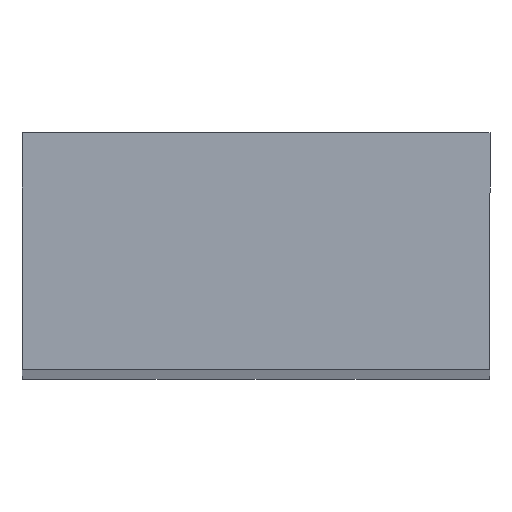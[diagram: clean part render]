
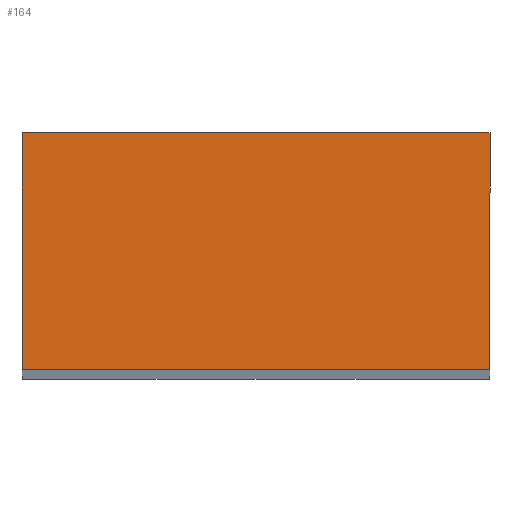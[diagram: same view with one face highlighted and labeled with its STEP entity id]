
A CAD part, top view. The second image highlights one B-rep face of the part: STEP entity #164.
In plain terms, the highlighted planar face has unit normal (0, 0, 1).
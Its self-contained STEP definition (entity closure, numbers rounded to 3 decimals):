
#84 = EDGE_LOOP ( 'NONE', ( #539, #537, #534, #533 ) ) ;
#164 = ADVANCED_FACE ( 'NONE', ( #646 ), #1028, .F. ) ;
#247 = LINE ( 'NONE', #1207, #248 ) ;
#248 = VECTOR ( 'NONE', #1206, 1000. ) ;
#285 = CARTESIAN_POINT ( 'NONE',  ( 10.125, -5.125, 260. ) ) ;
#298 = CARTESIAN_POINT ( 'NONE',  ( 10.125, 5.125, 260. ) ) ;
#383 = VERTEX_POINT ( 'NONE', #991 ) ;
#388 = VERTEX_POINT ( 'NONE', #984 ) ;
#445 = LINE ( 'NONE', #1233, #446 ) ;
#446 = VECTOR ( 'NONE', #1237, 1000. ) ;
#461 = LINE ( 'NONE', #1229, #462 ) ;
#462 = VECTOR ( 'NONE', #1228, 1000. ) ;
#463 = LINE ( 'NONE', #1227, #464 ) ;
#464 = VECTOR ( 'NONE', #1226, 1000. ) ;
#533 = ORIENTED_EDGE ( 'NONE', *, *, #775, .T. ) ;
#534 = ORIENTED_EDGE ( 'NONE', *, *, #772, .T. ) ;
#537 = ORIENTED_EDGE ( 'NONE', *, *, #771, .T. ) ;
#539 = ORIENTED_EDGE ( 'NONE', *, *, #720, .T. ) ;
#646 = FACE_OUTER_BOUND ( 'NONE', #84, .T. ) ;
#720 = EDGE_CURVE ( 'NONE', #383, #388, #247, .T. ) ;
#771 = EDGE_CURVE ( 'NONE', #388, #1090, #461, .T. ) ;
#772 = EDGE_CURVE ( 'NONE', #1090, #1091, #463, .T. ) ;
#775 = EDGE_CURVE ( 'NONE', #1091, #383, #445, .T. ) ;
#806 = AXIS2_PLACEMENT_3D ( 'NONE', #1019, #1046, #1044 ) ;
#984 = CARTESIAN_POINT ( 'NONE',  ( -10.125, -5.125, 260. ) ) ;
#991 = CARTESIAN_POINT ( 'NONE',  ( -10.125, 5.125, 260. ) ) ;
#1019 = CARTESIAN_POINT ( 'NONE',  ( -10.125, 5.125, 260. ) ) ;
#1028 = PLANE ( 'NONE',  #806 ) ;
#1044 = DIRECTION ( 'NONE',  ( -1., 0., 0. ) ) ;
#1046 = DIRECTION ( 'NONE',  ( 0., 0., -1. ) ) ;
#1090 = VERTEX_POINT ( 'NONE', #285 ) ;
#1091 = VERTEX_POINT ( 'NONE', #298 ) ;
#1206 = DIRECTION ( 'NONE',  ( 0., -1., 0. ) ) ;
#1207 = CARTESIAN_POINT ( 'NONE',  ( -10.125, -5.125, 260. ) ) ;
#1226 = DIRECTION ( 'NONE',  ( 0., 1., 0. ) ) ;
#1227 = CARTESIAN_POINT ( 'NONE',  ( 10.125, -5.125, 260. ) ) ;
#1228 = DIRECTION ( 'NONE',  ( 1., 0., 0. ) ) ;
#1229 = CARTESIAN_POINT ( 'NONE',  ( -10.125, -5.125, 260. ) ) ;
#1233 = CARTESIAN_POINT ( 'NONE',  ( -10.125, 5.125, 260. ) ) ;
#1237 = DIRECTION ( 'NONE',  ( -1., 0., 0. ) ) ;
